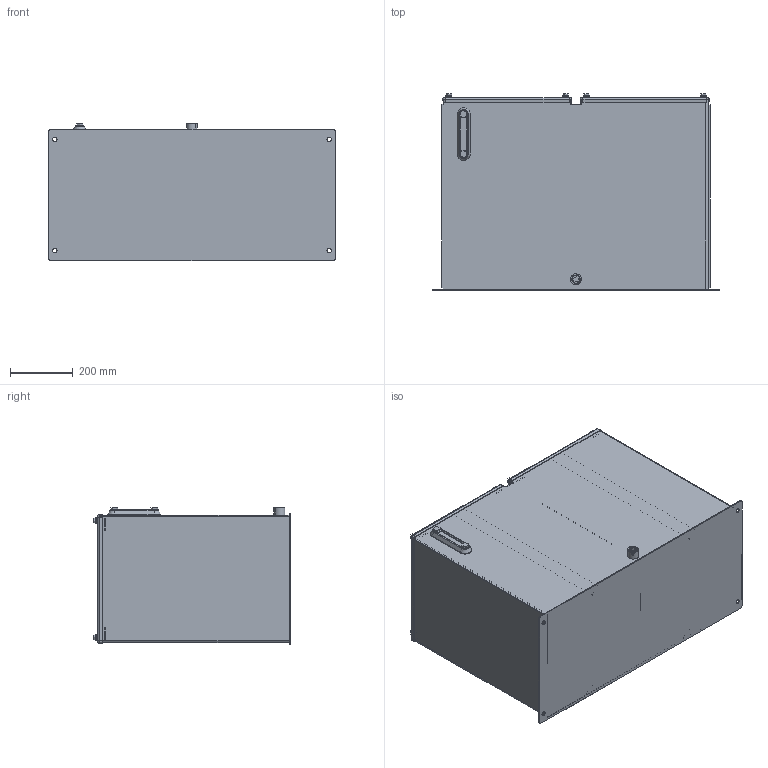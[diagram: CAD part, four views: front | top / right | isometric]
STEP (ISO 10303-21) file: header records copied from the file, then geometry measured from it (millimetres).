
FILE_DESCRIPTION (( 'STEP AP203' ), '1' );
FILE_NAME ('RDVS40-2.STEP', '2015-01-08T15:30:44', ( '' ), ( '' ), 'SwSTEP 2.0', 'SolidWorks 2014', '' );
FILE_SCHEMA (( 'CONFIG_CONTROL_DESIGN' ));
Length unit declared in the file: inch
Products named in the file (1): RDVS40-2
Bounding box: 914.4 x 628.04 x 438.15 mm (x, y, z)
Volume: 7329256.4 mm3; surface area: 4853594.9 mm2
Topology: 46 solids, 46 shells, 757 faces, 1740 edges, 1098 vertices
Faces by surface type: plane 371, cylinder 206, cone 110, torus 70
Entity records: 21455 total; most frequent: DIRECTION 3924, CARTESIAN_POINT 3608, ORIENTED_EDGE 3480, EDGE_CURVE 1740, AXIS2_PLACEMENT_3D 1430, VERTEX_POINT 1098, LINE 1064, VECTOR 1064
